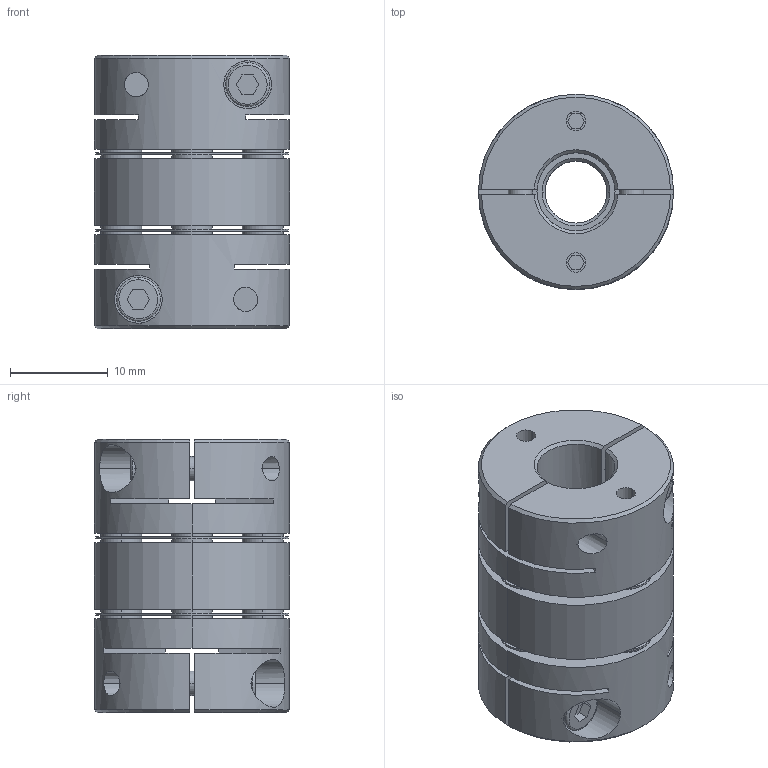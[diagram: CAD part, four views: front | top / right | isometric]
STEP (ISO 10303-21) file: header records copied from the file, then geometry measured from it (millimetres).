
FILE_DESCRIPTION((''),'2;1');
FILE_NAME('LA-20LS-6.35×8.stp','2015-10-05T09:58:36',(''),(''),'AutoCAD STEP 2000i','AutoCAD 2000i',', , ');
FILE_SCHEMA(('CONFIG_CONTROL_DESIGN'));
Length unit declared in the file: millimetre
Products named in the file (4): LA-20LS-4×8; 忣兜1; HUB-7-1; HUB-4-1
Assembly tree (3 placements, depth 2):
  LA-20LS-4×8
    忣兜1
    HUB-7-1
    HUB-4-1
Bounding box: 20 x 20 x 28 mm (x, y, z)
Volume: 6470.9 mm3; surface area: 6171.9 mm2
Topology: 1 solids, 1 shells, 276 faces, 715 edges, 491 vertices
Faces by surface type: cylinder 128, plane 120, torus 16, cone 12
Entity records: 9101 total; most frequent: CARTESIAN_POINT 1887, DIRECTION 1574, ORIENTED_EDGE 1400, EDGE_CURVE 700, AXIS2_PLACEMENT_3D 611, VERTEX_POINT 464, EDGE_LOOP 356, VECTOR 352
